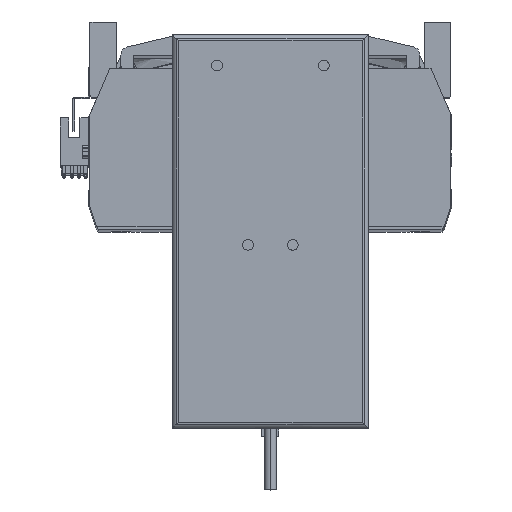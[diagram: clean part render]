
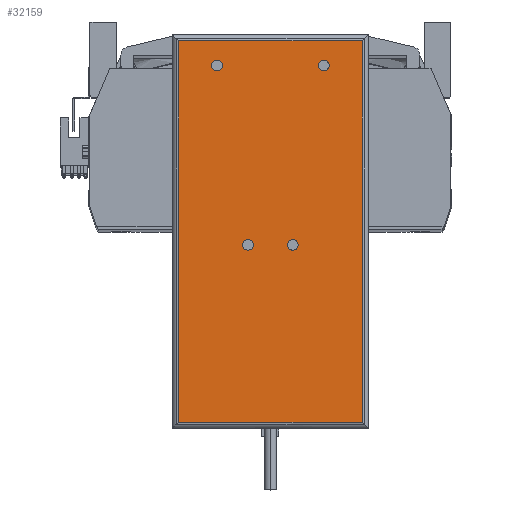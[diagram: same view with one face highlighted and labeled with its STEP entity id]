
A CAD part, top view. The second image highlights one B-rep face of the part: STEP entity #32159.
In plain terms, the highlighted planar face has unit normal (0, 0, 1) as drawn and (0, 0, -1) by its records, which use the part's own axes.
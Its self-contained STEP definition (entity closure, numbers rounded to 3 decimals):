
#175 = EDGE_LOOP ( 'NONE', ( #45797, #22016 ) ) ;
#616 = CIRCLE ( 'NONE', #38179, 2.5 ) ;
#771 = ORIENTED_EDGE ( 'NONE', *, *, #37750, .F. ) ;
#1084 = DIRECTION ( 'NONE',  ( -1., 0., 0. ) ) ;
#1207 = ORIENTED_EDGE ( 'NONE', *, *, #11589, .F. ) ;
#1820 = VERTEX_POINT ( 'NONE', #9492 ) ;
#2232 = VERTEX_POINT ( 'NONE', #43386 ) ;
#2441 = CARTESIAN_POINT ( 'NONE',  ( -43., -92.25, 0. ) ) ;
#2491 = DIRECTION ( 'NONE',  ( -1., 0., 0. ) ) ;
#3981 = CARTESIAN_POINT ( 'NONE',  ( -22.5, 77.75, 0. ) ) ;
#4108 = VERTEX_POINT ( 'NONE', #23994 ) ;
#4116 = FACE_BOUND ( 'NONE', #175, .T. ) ;
#4425 = ORIENTED_EDGE ( 'NONE', *, *, #40543, .F. ) ;
#4807 = DIRECTION ( 'NONE',  ( -1., 0., 0. ) ) ;
#4926 = CARTESIAN_POINT ( 'NONE',  ( 22.5, 77.75, 0. ) ) ;
#5545 = DIRECTION ( 'NONE',  ( 1., 0., 0. ) ) ;
#5610 = LINE ( 'NONE', #47140, #20820 ) ;
#6018 = PLANE ( 'NONE',  #35372 ) ;
#6049 = DIRECTION ( 'NONE',  ( 0., 1., 0. ) ) ;
#6287 = DIRECTION ( 'NONE',  ( 1., 0., 0. ) ) ;
#6413 = CARTESIAN_POINT ( 'NONE',  ( 10.5, -6.25, 0. ) ) ;
#7032 = CARTESIAN_POINT ( 'NONE',  ( 27.5, 77.75, 0. ) ) ;
#7365 = VERTEX_POINT ( 'NONE', #3981 ) ;
#7726 = AXIS2_PLACEMENT_3D ( 'NONE', #47441, #32637, #10243 ) ;
#7794 = CARTESIAN_POINT ( 'NONE',  ( -8., -6.25, 0. ) ) ;
#9492 = CARTESIAN_POINT ( 'NONE',  ( 13., -6.25, 0. ) ) ;
#9597 = CARTESIAN_POINT ( 'NONE',  ( -46., -92.25, 0. ) ) ;
#10214 = ORIENTED_EDGE ( 'NONE', *, *, #27780, .T. ) ;
#10243 = DIRECTION ( 'NONE',  ( -1., 0., 0. ) ) ;
#10913 = VERTEX_POINT ( 'NONE', #7794 ) ;
#11176 = EDGE_CURVE ( 'NONE', #36111, #2232, #35288, .T. ) ;
#11589 = EDGE_CURVE ( 'NONE', #4108, #1820, #34662, .T. ) ;
#11662 = EDGE_CURVE ( 'NONE', #2232, #18516, #22969, .T. ) ;
#11784 = DIRECTION ( 'NONE',  ( -1., 0., 0. ) ) ;
#11829 = VECTOR ( 'NONE', #33263, 1000. ) ;
#12417 = DIRECTION ( 'NONE',  ( 0., 0., -1. ) ) ;
#12496 = CARTESIAN_POINT ( 'NONE',  ( 25., 77.75, 0. ) ) ;
#12966 = AXIS2_PLACEMENT_3D ( 'NONE', #6413, #17392, #21147 ) ;
#13825 = AXIS2_PLACEMENT_3D ( 'NONE', #16069, #46047, #4807 ) ;
#13917 = ORIENTED_EDGE ( 'NONE', *, *, #11176, .T. ) ;
#14226 = VECTOR ( 'NONE', #6287, 1000. ) ;
#14529 = EDGE_CURVE ( 'NONE', #17852, #27507, #616, .T. ) ;
#14951 = VERTEX_POINT ( 'NONE', #32645 ) ;
#15211 = FACE_BOUND ( 'NONE', #48262, .T. ) ;
#16069 = CARTESIAN_POINT ( 'NONE',  ( -25., 77.75, 0. ) ) ;
#16136 = VERTEX_POINT ( 'NONE', #40014 ) ;
#17392 = DIRECTION ( 'NONE',  ( 0., 0., -1. ) ) ;
#17693 = CARTESIAN_POINT ( 'NONE',  ( -10.5, -6.25, 0. ) ) ;
#17852 = VERTEX_POINT ( 'NONE', #7032 ) ;
#18206 = EDGE_CURVE ( 'NONE', #10913, #34593, #19651, .T. ) ;
#18436 = CARTESIAN_POINT ( 'NONE',  ( 43., -92.25, 0. ) ) ;
#18516 = VERTEX_POINT ( 'NONE', #35177 ) ;
#19651 = CIRCLE ( 'NONE', #25536, 2.5 ) ;
#20709 = DIRECTION ( 'NONE',  ( 0., 0., -1. ) ) ;
#20820 = VECTOR ( 'NONE', #40160, 1000. ) ;
#20863 = AXIS2_PLACEMENT_3D ( 'NONE', #47277, #40447, #28555 ) ;
#21147 = DIRECTION ( 'NONE',  ( -1., 0., 0. ) ) ;
#22016 = ORIENTED_EDGE ( 'NONE', *, *, #14529, .F. ) ;
#22198 = FACE_OUTER_BOUND ( 'NONE', #23715, .T. ) ;
#22969 = LINE ( 'NONE', #18436, #11829 ) ;
#23033 = CARTESIAN_POINT ( 'NONE',  ( -13., -6.25, 0. ) ) ;
#23117 = EDGE_LOOP ( 'NONE', ( #30938, #771 ) ) ;
#23715 = EDGE_LOOP ( 'NONE', ( #42529, #10214, #31072, #13917 ) ) ;
#23994 = CARTESIAN_POINT ( 'NONE',  ( 8., -6.25, 0. ) ) ;
#24038 = AXIS2_PLACEMENT_3D ( 'NONE', #12496, #34724, #1084 ) ;
#24471 = CARTESIAN_POINT ( 'NONE',  ( -43., 89.25, 0. ) ) ;
#24540 = FACE_BOUND ( 'NONE', #24898, .T. ) ;
#24880 = CIRCLE ( 'NONE', #24038, 2.5 ) ;
#24898 = EDGE_LOOP ( 'NONE', ( #1207, #4425 ) ) ;
#25536 = AXIS2_PLACEMENT_3D ( 'NONE', #17693, #44210, #2491 ) ;
#26047 = CIRCLE ( 'NONE', #13825, 2.5 ) ;
#27507 = VERTEX_POINT ( 'NONE', #4926 ) ;
#27707 = EDGE_CURVE ( 'NONE', #14951, #36111, #43562, .T. ) ;
#27780 = EDGE_CURVE ( 'NONE', #18516, #14951, #5610, .T. ) ;
#28419 = VECTOR ( 'NONE', #6049, 1000. ) ;
#28555 = DIRECTION ( 'NONE',  ( -1., 0., 0. ) ) ;
#28670 = DIRECTION ( 'NONE',  ( -1., 0., 0. ) ) ;
#28815 = ORIENTED_EDGE ( 'NONE', *, *, #41329, .F. ) ;
#30938 = ORIENTED_EDGE ( 'NONE', *, *, #33274, .F. ) ;
#31072 = ORIENTED_EDGE ( 'NONE', *, *, #27707, .T. ) ;
#32103 = CIRCLE ( 'NONE', #7726, 2.5 ) ;
#32159 = ADVANCED_FACE ( 'NONE', ( #22198, #15211, #24540, #42630, #4116 ), #6018, .F. ) ;
#32637 = DIRECTION ( 'NONE',  ( 0., 0., -1. ) ) ;
#32645 = CARTESIAN_POINT ( 'NONE',  ( -43., -89.25, 0. ) ) ;
#33263 = DIRECTION ( 'NONE',  ( 0., -1., 0. ) ) ;
#33274 = EDGE_CURVE ( 'NONE', #16136, #7365, #32103, .T. ) ;
#33413 = CIRCLE ( 'NONE', #12966, 2.5 ) ;
#34593 = VERTEX_POINT ( 'NONE', #23033 ) ;
#34662 = CIRCLE ( 'NONE', #20863, 2.5 ) ;
#34724 = DIRECTION ( 'NONE',  ( 0., 0., -1. ) ) ;
#34999 = EDGE_CURVE ( 'NONE', #27507, #17852, #24880, .T. ) ;
#35177 = CARTESIAN_POINT ( 'NONE',  ( 43., -89.25, 0. ) ) ;
#35288 = LINE ( 'NONE', #47394, #14226 ) ;
#35372 = AXIS2_PLACEMENT_3D ( 'NONE', #9597, #39186, #5545 ) ;
#36111 = VERTEX_POINT ( 'NONE', #24471 ) ;
#36849 = CIRCLE ( 'NONE', #37721, 2.5 ) ;
#37721 = AXIS2_PLACEMENT_3D ( 'NONE', #42055, #20709, #28670 ) ;
#37750 = EDGE_CURVE ( 'NONE', #7365, #16136, #26047, .T. ) ;
#38179 = AXIS2_PLACEMENT_3D ( 'NONE', #42281, #12417, #11784 ) ;
#39186 = DIRECTION ( 'NONE',  ( 0., 0., 1. ) ) ;
#40014 = CARTESIAN_POINT ( 'NONE',  ( -27.5, 77.75, 0. ) ) ;
#40160 = DIRECTION ( 'NONE',  ( -1., 0., 0. ) ) ;
#40447 = DIRECTION ( 'NONE',  ( 0., 0., -1. ) ) ;
#40543 = EDGE_CURVE ( 'NONE', #1820, #4108, #33413, .T. ) ;
#41329 = EDGE_CURVE ( 'NONE', #34593, #10913, #36849, .T. ) ;
#42055 = CARTESIAN_POINT ( 'NONE',  ( -10.5, -6.25, 0. ) ) ;
#42281 = CARTESIAN_POINT ( 'NONE',  ( 25., 77.75, 0. ) ) ;
#42485 = ORIENTED_EDGE ( 'NONE', *, *, #18206, .F. ) ;
#42529 = ORIENTED_EDGE ( 'NONE', *, *, #11662, .T. ) ;
#42630 = FACE_BOUND ( 'NONE', #23117, .T. ) ;
#43386 = CARTESIAN_POINT ( 'NONE',  ( 43., 89.25, 0. ) ) ;
#43562 = LINE ( 'NONE', #2441, #28419 ) ;
#44210 = DIRECTION ( 'NONE',  ( 0., 0., -1. ) ) ;
#45797 = ORIENTED_EDGE ( 'NONE', *, *, #34999, .F. ) ;
#46047 = DIRECTION ( 'NONE',  ( 0., 0., -1. ) ) ;
#47140 = CARTESIAN_POINT ( 'NONE',  ( -46., -89.25, 0. ) ) ;
#47277 = CARTESIAN_POINT ( 'NONE',  ( 10.5, -6.25, 0. ) ) ;
#47394 = CARTESIAN_POINT ( 'NONE',  ( -46., 89.25, 0. ) ) ;
#47441 = CARTESIAN_POINT ( 'NONE',  ( -25., 77.75, 0. ) ) ;
#48262 = EDGE_LOOP ( 'NONE', ( #28815, #42485 ) ) ;
